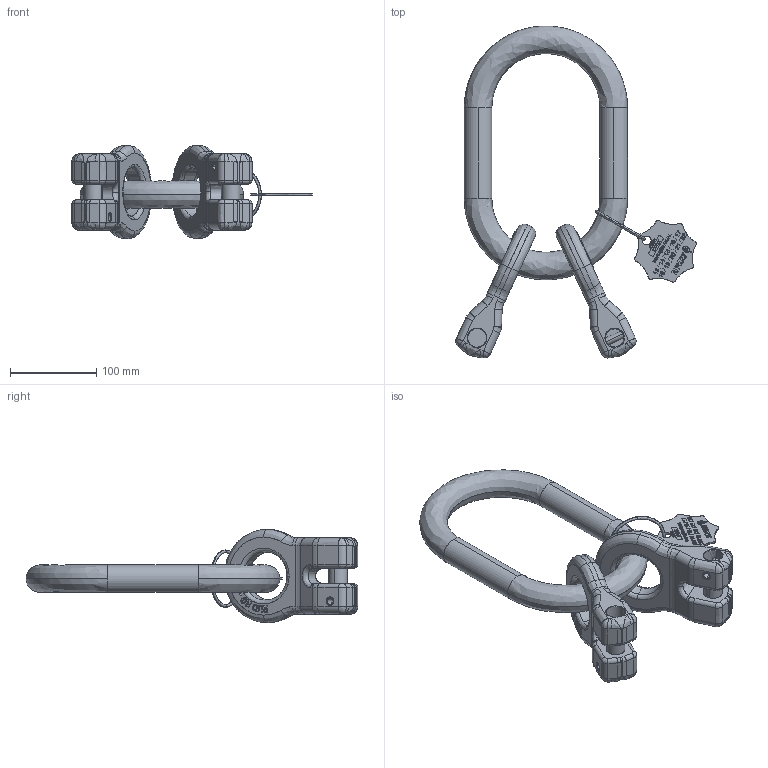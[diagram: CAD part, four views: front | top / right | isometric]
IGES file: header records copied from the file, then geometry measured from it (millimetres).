
Start section: SolidWorks IGES file using analytic representation for surfaces
Global section: file name: R:\Projetos\André.Siqueira\COMPONENTES PADRÃO\13-AK-2\AK2-16\AK2-16\AK2-16.IGS; native system: SolidWorks 2012; preprocessor: SolidWorks 2012; author: andre.siqueira; date: 130410.135043; units: millimetre
Bounding box: 278.47 x 384.24 x 107.82 mm (x, y, z)
Surface area: 176398.6 mm2 (no closed solid volume)
Topology: 0 solids, 0 shells, 1564 faces, 16505 edges, 16485 vertices
Faces by surface type: bspline 1275, revolution 289
